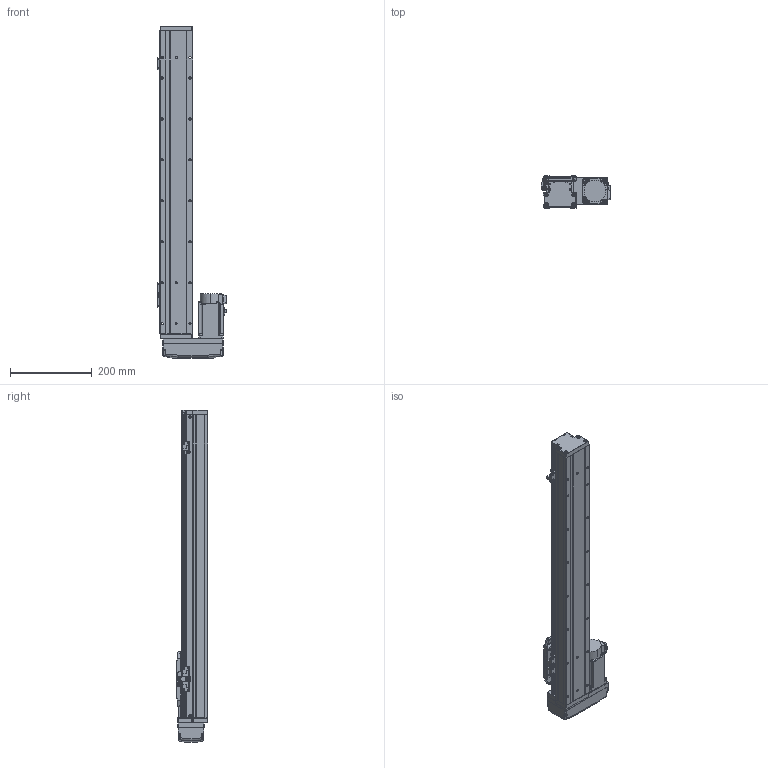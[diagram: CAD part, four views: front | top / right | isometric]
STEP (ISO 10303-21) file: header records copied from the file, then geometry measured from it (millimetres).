
FILE_DESCRIPTION (( 'STEP AP203' ), '1' );
FILE_NAME ('GTH8-550-BR-M20-C4.step', '2022-09-23T01:10:44', ( '微软用户' ), ( '微软中国' ), 'SwSTEP 2.0', 'SolidWorks 2020', '' );
FILE_SCHEMA (( 'CONFIG_CONTROL_DESIGN' ));
Length unit declared in the file: millimetre
Products named in the file (18): GTH80-013; GTH50-023; GBT 70.3-M3℅6; GBT96.1-2002 3×0.8; GTH80-022; BTH-M3X5X6; GTH80-001_550; GBT 70.1-M3℅6; hg-kn43j_-s100_; GTH80-003; GBT 70.1-M4×16; CTHA86-015-1_CTHA86-015-2; GTH80-004; GTH80-028; CTHA86-033_M40B; GTH80-006; GTH50-024; GTH8-550-BR-M20-C4
Assembly tree (57 placements, depth 2):
  GTH8-550-BR-M20-C4
    GTH80-001_550
    GTH80-003
    GTH80-004
    GTH80-006
    GTH80-013
    GBT 70.3-M3℅6  x4
    GTH80-022
    GBT 70.1-M3℅6  x14
    GBT 70.1-M4×16  x8
    GTH80-028  x2
    GTH50-024  x3
    GTH50-023  x3
    GBT96.1-2002 3×0.8  x6
    BTH-M3X5X6  x8
    hg-kn43j_-s100_
    CTHA86-015-1_CTHA86-015-2
    CTHA86-033_M40B
Bounding box: 169.7 x 78 x 811 mm (x, y, z)
Volume: 4193602.7 mm3; surface area: 446927.4 mm2
Topology: 59 solids, 59 shells, 2240 faces, 5175 edges, 3171 vertices
Faces by surface type: plane 1187, cylinder 611, cone 260, torus 166, bspline 8, sphere 8
Entity records: 40922 total; most frequent: CARTESIAN_POINT 7193, DIRECTION 6649, ORIENTED_EDGE 6168, EDGE_CURVE 3084, AXIS2_PLACEMENT_3D 2325, VECTOR 1999, LINE 1999, VERTEX_POINT 1946
